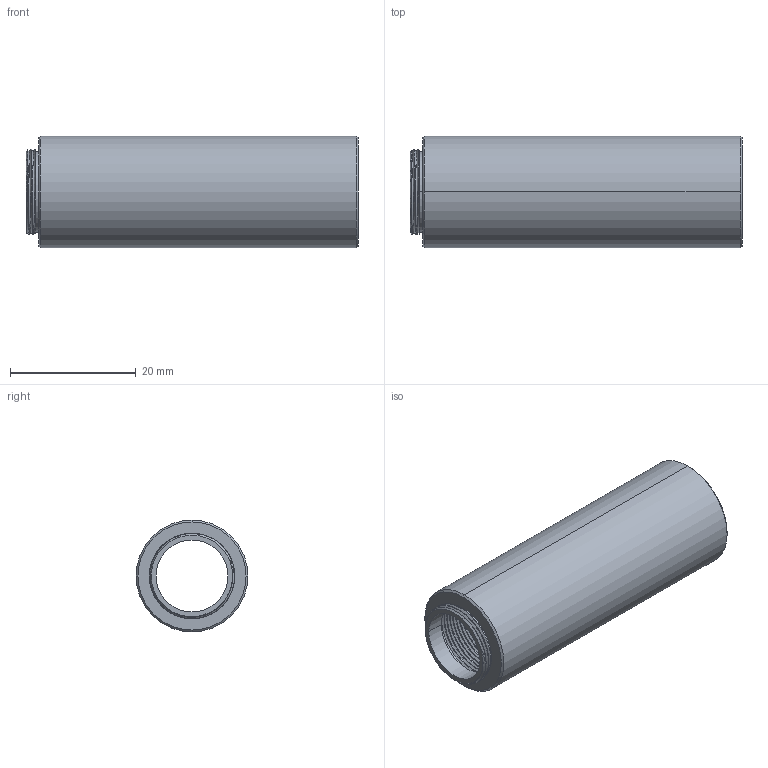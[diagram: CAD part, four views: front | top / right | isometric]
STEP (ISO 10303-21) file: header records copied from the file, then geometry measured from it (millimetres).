
FILE_DESCRIPTION((''),'2;1');
FILE_NAME('SM05L20','2022-11-14T',('daizh'),(''),'CREO PARAMETRIC BY PTC INC, 2018360','CREO PARAMETRIC BY PTC INC, 2018360','');
FILE_SCHEMA(('CONFIG_CONTROL_DESIGN'));
Length unit declared in the file: millimetre
Products named in the file (1): SM05L20
Bounding box: 52.8 x 17.78 x 17.78 mm (x, y, z)
Volume: 5585.6 mm3; surface area: 6160.3 mm2
Topology: 1 solids, 1 shells, 222 faces, 624 edges, 407 vertices
Faces by surface type: cylinder 163, bspline 46, cone 8, plane 5
Entity records: 25569 total; most frequent: CARTESIAN_POINT 20692, ORIENTED_EDGE 1248, EDGE_CURVE 624, DIRECTION 616, VERTEX_POINT 407, B_SPLINE_CURVE_WITH_KNOTS 386, EDGE_LOOP 227, FACE_OUTER_BOUND 222
